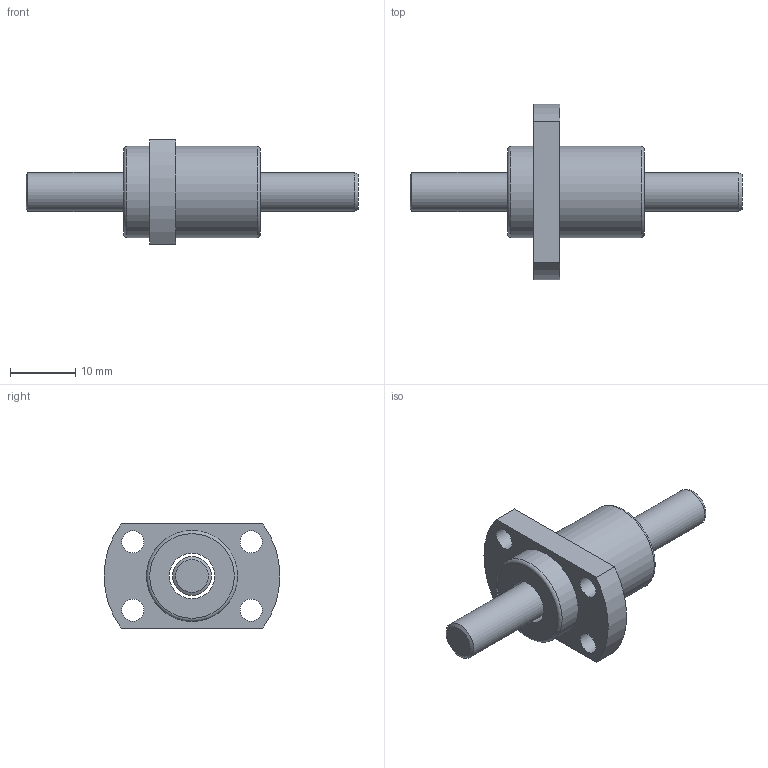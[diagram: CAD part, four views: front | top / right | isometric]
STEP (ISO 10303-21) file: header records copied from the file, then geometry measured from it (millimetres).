
FILE_DESCRIPTION(/* description */ (''),/* implementation_level */ '2;1');
FILE_NAME(/* name */ '',/* time_stamp */ '2020-12-24T14:21:52+08:00',/* author */ (''),/* organization */ (''),/* preprocessor_version */ 'ST-DEVELOPER v14',/* originating_system */ 'SIEMENS PLM Software NX 8.0',/* authorisation */ '');
FILE_SCHEMA (('AP203_CONFIGURATION_CONTROLLED_3D_DESIGN_OF_MECHANICAL_PARTS_AND_ASSEMBLIES_MIM_LF { 1 0 10303 403 2 1 2}'));
Length unit declared in the file: millimetre
Products named in the file (1): 00250FD0895Etica
Bounding box: 51 x 27 x 16 mm (x, y, z)
Volume: 4719 mm3; surface area: 3342.6 mm2
Topology: 2 solids, 2 shells, 22 faces, 47 edges, 31 vertices
Faces by surface type: cylinder 10, plane 8, cone 2, torus 2
Full cylindrical faces by diameter (mm): 3.4 x4, 6 x1, 7 x1, 14 x2
Entity records: 630 total; most frequent: DIRECTION 102, CARTESIAN_POINT 83, ORIENTED_EDGE 64, AXIS2_PLACEMENT_3D 47, EDGE_LOOP 46, FACE_BOUND 40, EDGE_CURVE 32, VERTEX_POINT 28
